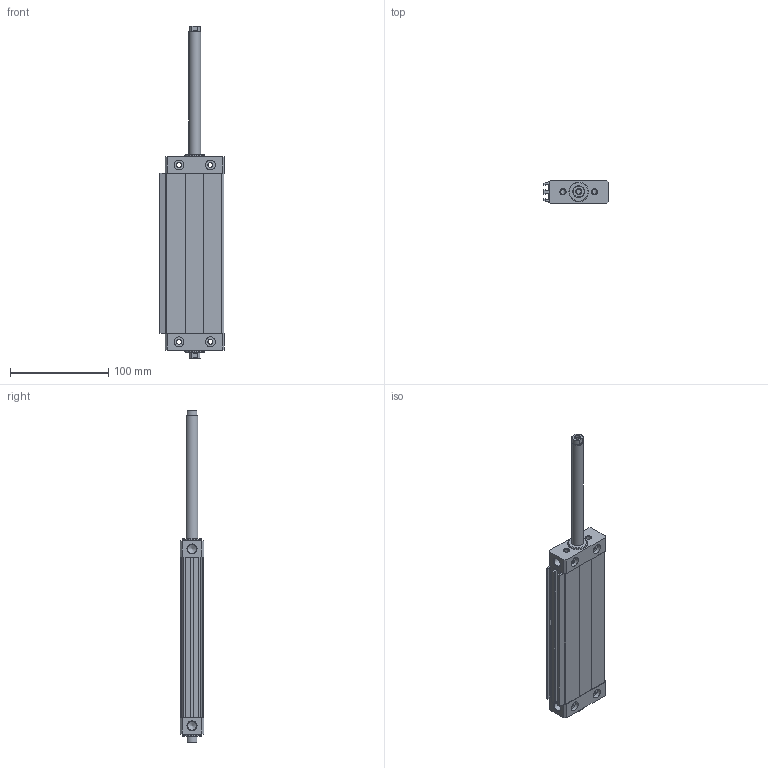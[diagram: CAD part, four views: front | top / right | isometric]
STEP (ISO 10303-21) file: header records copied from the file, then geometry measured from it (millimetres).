
FILE_DESCRIPTION((''),'2;1');
FILE_NAME('I:\Area Tecnica\Disegni\VARIE-3D\Componenti\1370 - CPO\1370_##_0000_03\1370_32_0125_03-01.iam.step','2010-12-16T10:55:04',(''),(''),'Autodesk Inventor 2011','Autodesk Inventor 2011','');
FILE_SCHEMA(('AUTOMOTIVE_DESIGN { 1 0 10303 214 1 1 1 1 }'));
Length unit declared in the file: millimetre
Products named in the file (5): 1370_32_0125_03-01; 1370_05_32_0000; 1370_06_32_0125; 1370_08_32_0000; 1370_3_32_0125
Assembly tree (4 placements, depth 2):
  1370_32_0125_03-01
    1370_05_32_0000
    1370_06_32_0125
    1370_08_32_0000
    1370_3_32_0125
Bounding box: 65.5 x 24 x 338 mm (x, y, z)
Volume: 200669.3 mm3; surface area: 87631.7 mm2
Topology: 4 solids, 4 shells, 164 faces, 392 edges, 250 vertices
Faces by surface type: plane 92, cylinder 48, cone 24
Full cylindrical faces by diameter (mm): 5 x12, 6.3 x2, 8.7 x2, 10 x8, 11.5 x2, 12 x4, 20 x2
Entity records: 4780 total; most frequent: DIRECTION 792, CARTESIAN_POINT 787, ORIENTED_EDGE 660, EDGE_CURVE 330, AXIS2_PLACEMENT_3D 297, EDGE_LOOP 252, VERTEX_POINT 240, VECTOR 198
